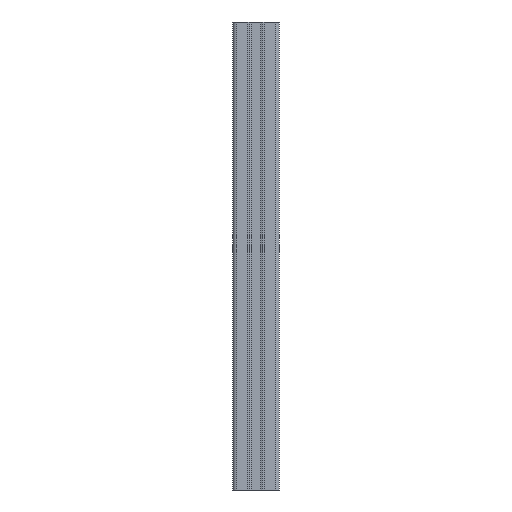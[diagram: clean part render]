
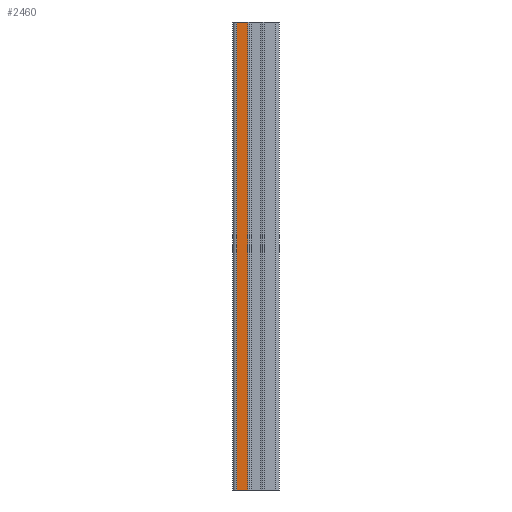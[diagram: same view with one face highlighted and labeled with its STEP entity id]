
A CAD part, left-side view. The second image highlights one B-rep face of the part: STEP entity #2460.
In plain terms, the highlighted planar face has unit normal (-1, 0, 0).
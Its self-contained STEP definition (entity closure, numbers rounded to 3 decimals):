
#132 = VERTEX_POINT ( 'NONE', #2629 ) ;
#200 = EDGE_CURVE ( 'NONE', #132, #4442, #3066, .T. ) ;
#226 = DIRECTION ( 'NONE',  ( 0., 0., -1. ) ) ;
#293 = CARTESIAN_POINT ( 'NONE',  ( -15., 12.5, 150. ) ) ;
#717 = DIRECTION ( 'NONE',  ( 0., 0., -1. ) ) ;
#741 = CARTESIAN_POINT ( 'NONE',  ( -15., 5.15, 150. ) ) ;
#1076 = CARTESIAN_POINT ( 'NONE',  ( -15., 12.5, -150. ) ) ;
#1226 = CARTESIAN_POINT ( 'NONE',  ( -15., 12.5, 150. ) ) ;
#1249 = LINE ( 'NONE', #741, #3837 ) ;
#1615 = VERTEX_POINT ( 'NONE', #3107 ) ;
#1685 = FACE_OUTER_BOUND ( 'NONE', #1735, .T. ) ;
#1735 = EDGE_LOOP ( 'NONE', ( #2322, #4993, #4906, #4466 ) ) ;
#1767 = CARTESIAN_POINT ( 'NONE',  ( -15., 5.15, 150. ) ) ;
#1783 = VECTOR ( 'NONE', #717, 1000. ) ;
#1788 = VERTEX_POINT ( 'NONE', #1076 ) ;
#1848 = EDGE_CURVE ( 'NONE', #1788, #1615, #4634, .T. ) ;
#1864 = VECTOR ( 'NONE', #1987, 1000. ) ;
#1987 = DIRECTION ( 'NONE',  ( 0., -1., 0. ) ) ;
#2042 = VECTOR ( 'NONE', #3563, 1000. ) ;
#2322 = ORIENTED_EDGE ( 'NONE', *, *, #1848, .T. ) ;
#2355 = AXIS2_PLACEMENT_3D ( 'NONE', #293, #4940, #4400 ) ;
#2382 = PLANE ( 'NONE',  #2355 ) ;
#2460 = ADVANCED_FACE ( 'NONE', ( #1685 ), #2382, .F. ) ;
#2526 = CARTESIAN_POINT ( 'NONE',  ( -15., 12.5, 150. ) ) ;
#2629 = CARTESIAN_POINT ( 'NONE',  ( -15., 12.5, 150. ) ) ;
#3066 = LINE ( 'NONE', #2526, #1864 ) ;
#3107 = CARTESIAN_POINT ( 'NONE',  ( -15., 5.15, -150. ) ) ;
#3563 = DIRECTION ( 'NONE',  ( 0., -1., 0. ) ) ;
#3837 = VECTOR ( 'NONE', #226, 1000. ) ;
#4062 = EDGE_CURVE ( 'NONE', #132, #1788, #4426, .T. ) ;
#4094 = CARTESIAN_POINT ( 'NONE',  ( -15., 12.5, -150. ) ) ;
#4400 = DIRECTION ( 'NONE',  ( 0., 0., -1. ) ) ;
#4426 = LINE ( 'NONE', #1226, #1783 ) ;
#4442 = VERTEX_POINT ( 'NONE', #1767 ) ;
#4466 = ORIENTED_EDGE ( 'NONE', *, *, #4062, .T. ) ;
#4492 = EDGE_CURVE ( 'NONE', #4442, #1615, #1249, .T. ) ;
#4634 = LINE ( 'NONE', #4094, #2042 ) ;
#4906 = ORIENTED_EDGE ( 'NONE', *, *, #200, .F. ) ;
#4940 = DIRECTION ( 'NONE',  ( 1., 0., 0. ) ) ;
#4993 = ORIENTED_EDGE ( 'NONE', *, *, #4492, .F. ) ;
